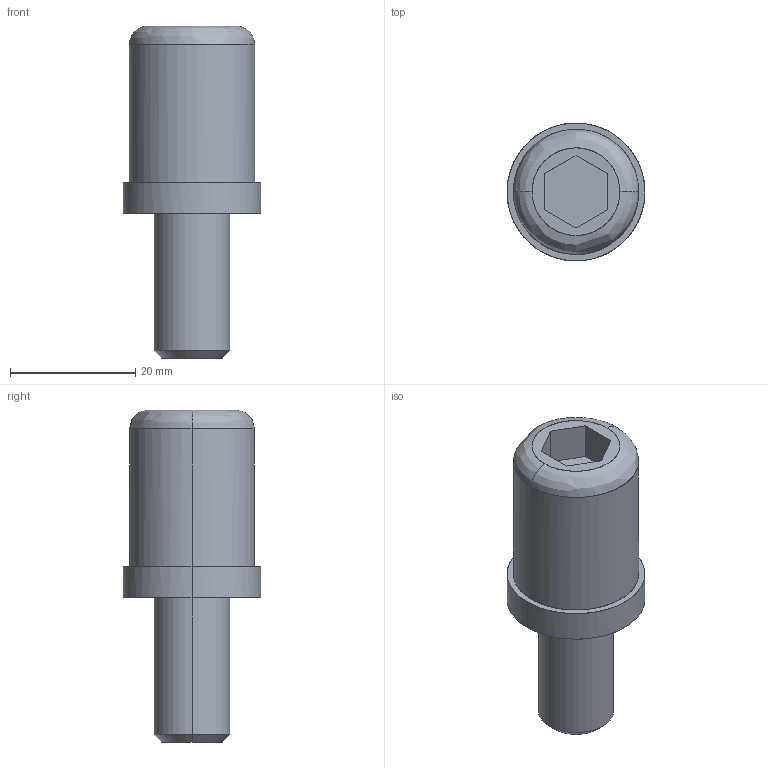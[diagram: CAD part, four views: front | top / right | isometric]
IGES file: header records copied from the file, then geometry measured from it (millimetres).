
Global section: file name: E:\UnigraphicsGraphicData\MISUMI_PRESS-PARTS\IGES\3d_sga22-30_00789_r00.igs; native system: NX V5.0; preprocessor: UGS NX IGES V5.0; author: MISUMI; date: 20110105.162529; units: millimetre
Bounding box: 22 x 22 x 53 mm (x, y, z)
Surface area: 3640.1 mm2 (no closed solid volume)
Topology: 0 solids, 0 shells, 21 faces, 124 edges, 124 vertices
Faces by surface type: bspline 21
